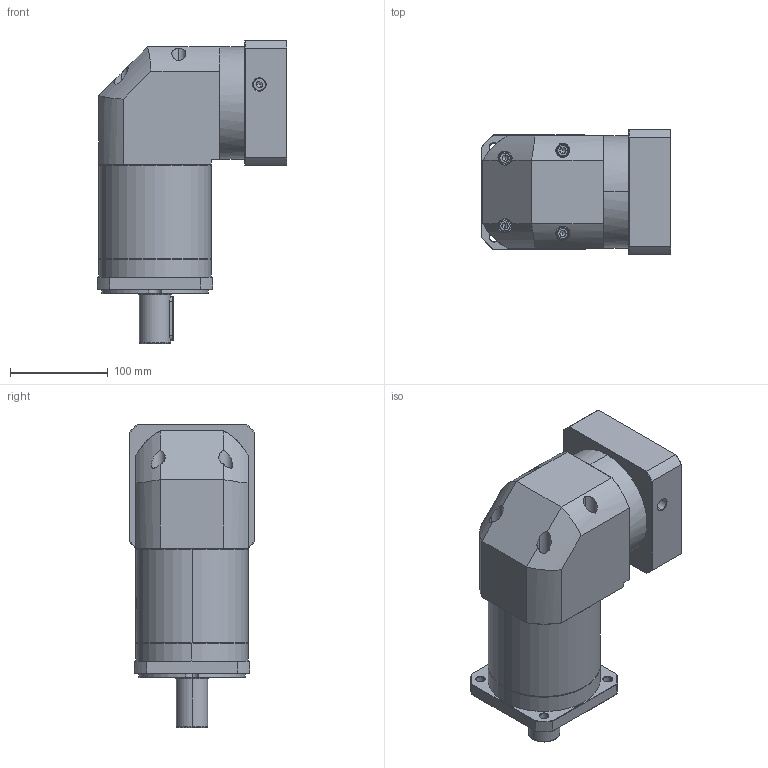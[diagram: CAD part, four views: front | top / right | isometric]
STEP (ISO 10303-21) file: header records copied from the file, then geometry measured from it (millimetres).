
FILE_DESCRIPTION (( 'STEP AP214' ), '1' );
FILE_NAME ('ZFR120A-D32-L3-P2-22-110-145-M8.step', '2023-08-27T08:11:22', ( '' ), ( '' ), 'SwSTEP 2.0', 'SolidWorks 2016', '' );
FILE_SCHEMA (( 'AUTOMOTIVE_DESIGN' ));
Length unit declared in the file: millimetre
Products named in the file (1): ZFR120A-D32-L3-P2-22-110-145-M8
Bounding box: 193.9 x 128 x 310 mm (x, y, z)
Volume: 3584993 mm3; surface area: 272817.7 mm2
Topology: 6 solids, 6 shells, 2266 faces, 5977 edges, 3816 vertices
Faces by surface type: plane 1061, cylinder 434, bspline 425, cone 338, torus 8
Entity records: 124464 total; most frequent: CARTESIAN_POINT 49050, ORIENTED_EDGE 11894, DIRECTION 8623, EDGE_CURVE 5947, VERTEX_POINT 3816, LINE 3159, VECTOR 3159, AXIS2_PLACEMENT_3D 2732
